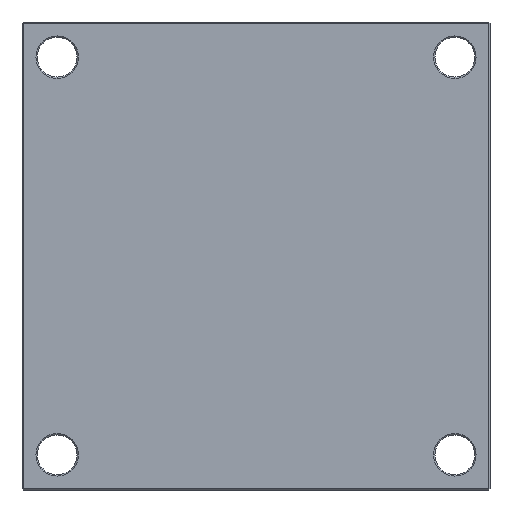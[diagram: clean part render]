
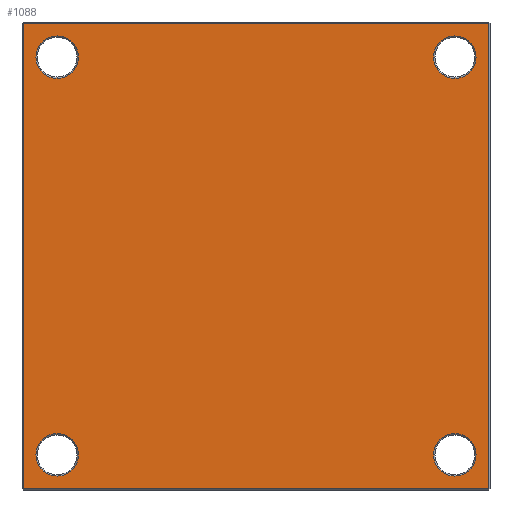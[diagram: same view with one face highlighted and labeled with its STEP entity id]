
A CAD part, front view. The second image highlights one B-rep face of the part: STEP entity #1088.
In plain terms, the highlighted planar face has unit normal (0, -1, 0).
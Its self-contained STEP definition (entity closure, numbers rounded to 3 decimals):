
#3 = CARTESIAN_POINT ( 'NONE',  ( 147., 0., 131.3 ) ) ;
#41 = EDGE_LOOP ( 'NONE', ( #1900, #1956 ) ) ;
#67 = CARTESIAN_POINT ( 'NONE',  ( 172., 0., 172. ) ) ;
#79 = VERTEX_POINT ( 'NONE', #160 ) ;
#118 = FACE_BOUND ( 'NONE', #253, .T. ) ;
#142 = LINE ( 'NONE', #491, #459 ) ;
#160 = CARTESIAN_POINT ( 'NONE',  ( 147., 0., -131.3 ) ) ;
#167 = CARTESIAN_POINT ( 'NONE',  ( 147., 0., 147. ) ) ;
#215 = LINE ( 'NONE', #1260, #1065 ) ;
#253 = EDGE_LOOP ( 'NONE', ( #1251, #1670 ) ) ;
#266 = VERTEX_POINT ( 'NONE', #3 ) ;
#283 = CIRCLE ( 'NONE', #1716, 15.7 ) ;
#287 = EDGE_CURVE ( 'NONE', #1730, #1241, #1700, .T. ) ;
#370 = LINE ( 'NONE', #1238, #2094 ) ;
#375 = AXIS2_PLACEMENT_3D ( 'NONE', #2086, #2099, #2117 ) ;
#396 = CARTESIAN_POINT ( 'NONE',  ( -172., 0., 172. ) ) ;
#419 = AXIS2_PLACEMENT_3D ( 'NONE', #1198, #1209, #1218 ) ;
#420 = CARTESIAN_POINT ( 'NONE',  ( -172., 0., -172. ) ) ;
#443 = AXIS2_PLACEMENT_3D ( 'NONE', #2106, #1504, #1980 ) ;
#445 = DIRECTION ( 'NONE',  ( 0., 0., 1. ) ) ;
#456 = DIRECTION ( 'NONE',  ( 0., 1., 0. ) ) ;
#459 = VECTOR ( 'NONE', #1862, 1000. ) ;
#471 = CARTESIAN_POINT ( 'NONE',  ( -147., 0., 162.7 ) ) ;
#476 = ORIENTED_EDGE ( 'NONE', *, *, #1756, .T. ) ;
#481 = VERTEX_POINT ( 'NONE', #420 ) ;
#486 = CARTESIAN_POINT ( 'NONE',  ( -147., 0., -147. ) ) ;
#491 = CARTESIAN_POINT ( 'NONE',  ( 0., 0., -172. ) ) ;
#493 = ORIENTED_EDGE ( 'NONE', *, *, #1743, .T. ) ;
#527 = FACE_BOUND ( 'NONE', #906, .T. ) ;
#542 = EDGE_LOOP ( 'NONE', ( #1621, #476 ) ) ;
#577 = DIRECTION ( 'NONE',  ( -1., 0., 0. ) ) ;
#578 = DIRECTION ( 'NONE',  ( 0., 0., 1. ) ) ;
#602 = CIRCLE ( 'NONE', #2078, 15.7 ) ;
#614 = ORIENTED_EDGE ( 'NONE', *, *, #1702, .T. ) ;
#655 = VECTOR ( 'NONE', #768, 1000. ) ;
#669 = VERTEX_POINT ( 'NONE', #2167 ) ;
#692 = VERTEX_POINT ( 'NONE', #1356 ) ;
#695 = AXIS2_PLACEMENT_3D ( 'NONE', #1032, #1188, #1194 ) ;
#719 = CIRCLE ( 'NONE', #443, 15.7 ) ;
#720 = LINE ( 'NONE', #955, #655 ) ;
#768 = DIRECTION ( 'NONE',  ( 0., 0., -1. ) ) ;
#829 = DIRECTION ( 'NONE',  ( 0., 0., 1. ) ) ;
#906 = EDGE_LOOP ( 'NONE', ( #2052, #1725 ) ) ;
#908 = CARTESIAN_POINT ( 'NONE',  ( 172., 0., -172. ) ) ;
#916 = PLANE ( 'NONE',  #695 ) ;
#955 = CARTESIAN_POINT ( 'NONE',  ( -172., 0., 0. ) ) ;
#1032 = CARTESIAN_POINT ( 'NONE',  ( 0., 0., 0. ) ) ;
#1033 = DIRECTION ( 'NONE',  ( 0., 0., 1. ) ) ;
#1065 = VECTOR ( 'NONE', #578, 1000. ) ;
#1088 = ADVANCED_FACE ( 'NONE', ( #1456, #527, #118, #1856, #1389 ), #916, .F. ) ;
#1113 = CIRCLE ( 'NONE', #2079, 15.7 ) ;
#1140 = DIRECTION ( 'NONE',  ( 0., 1., 0. ) ) ;
#1167 = ORIENTED_EDGE ( 'NONE', *, *, #1790, .T. ) ;
#1185 = DIRECTION ( 'NONE',  ( 0., 1., 0. ) ) ;
#1188 = DIRECTION ( 'NONE',  ( 0., 1., 0. ) ) ;
#1194 = DIRECTION ( 'NONE',  ( 0., 0., 1. ) ) ;
#1198 = CARTESIAN_POINT ( 'NONE',  ( 147., 0., -147. ) ) ;
#1209 = DIRECTION ( 'NONE',  ( 0., 1., 0. ) ) ;
#1218 = DIRECTION ( 'NONE',  ( 0., 0., 1. ) ) ;
#1238 = CARTESIAN_POINT ( 'NONE',  ( 0., 0., 172. ) ) ;
#1241 = VERTEX_POINT ( 'NONE', #1896 ) ;
#1251 = ORIENTED_EDGE ( 'NONE', *, *, #1392, .T. ) ;
#1260 = CARTESIAN_POINT ( 'NONE',  ( 172., 0., 0. ) ) ;
#1314 = CARTESIAN_POINT ( 'NONE',  ( -147., 0., 147. ) ) ;
#1334 = EDGE_CURVE ( 'NONE', #669, #1485, #719, .T. ) ;
#1335 = DIRECTION ( 'NONE',  ( 0., 0., 1. ) ) ;
#1356 = CARTESIAN_POINT ( 'NONE',  ( 147., 0., -162.7 ) ) ;
#1361 = EDGE_CURVE ( 'NONE', #692, #79, #1880, .T. ) ;
#1378 = CARTESIAN_POINT ( 'NONE',  ( 147., 0., 147. ) ) ;
#1389 = FACE_OUTER_BOUND ( 'NONE', #1521, .T. ) ;
#1392 = EDGE_CURVE ( 'NONE', #266, #2084, #283, .T. ) ;
#1415 = EDGE_CURVE ( 'NONE', #1241, #1730, #1547, .T. ) ;
#1443 = ORIENTED_EDGE ( 'NONE', *, *, #1750, .T. ) ;
#1456 = FACE_BOUND ( 'NONE', #41, .T. ) ;
#1485 = VERTEX_POINT ( 'NONE', #471 ) ;
#1504 = DIRECTION ( 'NONE',  ( 0., 1., 0. ) ) ;
#1521 = EDGE_LOOP ( 'NONE', ( #1443, #614, #493, #1167 ) ) ;
#1547 = CIRCLE ( 'NONE', #375, 15.7 ) ;
#1613 = CARTESIAN_POINT ( 'NONE',  ( -147., 0., -131.3 ) ) ;
#1621 = ORIENTED_EDGE ( 'NONE', *, *, #1334, .T. ) ;
#1631 = CIRCLE ( 'NONE', #1899, 15.7 ) ;
#1661 = CARTESIAN_POINT ( 'NONE',  ( 147., 0., 162.7 ) ) ;
#1670 = ORIENTED_EDGE ( 'NONE', *, *, #1762, .T. ) ;
#1674 = VERTEX_POINT ( 'NONE', #908 ) ;
#1687 = DIRECTION ( 'NONE',  ( 0., 1., 0. ) ) ;
#1688 = VERTEX_POINT ( 'NONE', #396 ) ;
#1700 = CIRCLE ( 'NONE', #1729, 15.7 ) ;
#1702 = EDGE_CURVE ( 'NONE', #2174, #1688, #370, .T. ) ;
#1716 = AXIS2_PLACEMENT_3D ( 'NONE', #1378, #1185, #1033 ) ;
#1725 = ORIENTED_EDGE ( 'NONE', *, *, #2049, .T. ) ;
#1729 = AXIS2_PLACEMENT_3D ( 'NONE', #486, #456, #445 ) ;
#1730 = VERTEX_POINT ( 'NONE', #1613 ) ;
#1743 = EDGE_CURVE ( 'NONE', #1688, #481, #720, .T. ) ;
#1750 = EDGE_CURVE ( 'NONE', #1674, #2174, #215, .T. ) ;
#1756 = EDGE_CURVE ( 'NONE', #1485, #669, #1113, .T. ) ;
#1762 = EDGE_CURVE ( 'NONE', #2084, #266, #602, .T. ) ;
#1790 = EDGE_CURVE ( 'NONE', #481, #1674, #142, .T. ) ;
#1839 = CARTESIAN_POINT ( 'NONE',  ( 147., 0., -147. ) ) ;
#1856 = FACE_BOUND ( 'NONE', #542, .T. ) ;
#1862 = DIRECTION ( 'NONE',  ( 1., 0., 0. ) ) ;
#1880 = CIRCLE ( 'NONE', #419, 15.7 ) ;
#1891 = DIRECTION ( 'NONE',  ( 0., 1., 0. ) ) ;
#1896 = CARTESIAN_POINT ( 'NONE',  ( -147., 0., -162.7 ) ) ;
#1899 = AXIS2_PLACEMENT_3D ( 'NONE', #1839, #1891, #2027 ) ;
#1900 = ORIENTED_EDGE ( 'NONE', *, *, #1415, .T. ) ;
#1956 = ORIENTED_EDGE ( 'NONE', *, *, #287, .T. ) ;
#1980 = DIRECTION ( 'NONE',  ( 0., 0., 1. ) ) ;
#2027 = DIRECTION ( 'NONE',  ( 0., 0., 1. ) ) ;
#2049 = EDGE_CURVE ( 'NONE', #79, #692, #1631, .T. ) ;
#2052 = ORIENTED_EDGE ( 'NONE', *, *, #1361, .T. ) ;
#2078 = AXIS2_PLACEMENT_3D ( 'NONE', #167, #1687, #1335 ) ;
#2079 = AXIS2_PLACEMENT_3D ( 'NONE', #1314, #1140, #829 ) ;
#2084 = VERTEX_POINT ( 'NONE', #1661 ) ;
#2086 = CARTESIAN_POINT ( 'NONE',  ( -147., 0., -147. ) ) ;
#2094 = VECTOR ( 'NONE', #577, 1000. ) ;
#2099 = DIRECTION ( 'NONE',  ( 0., 1., 0. ) ) ;
#2106 = CARTESIAN_POINT ( 'NONE',  ( -147., 0., 147. ) ) ;
#2117 = DIRECTION ( 'NONE',  ( 0., 0., 1. ) ) ;
#2167 = CARTESIAN_POINT ( 'NONE',  ( -147., 0., 131.3 ) ) ;
#2174 = VERTEX_POINT ( 'NONE', #67 ) ;
